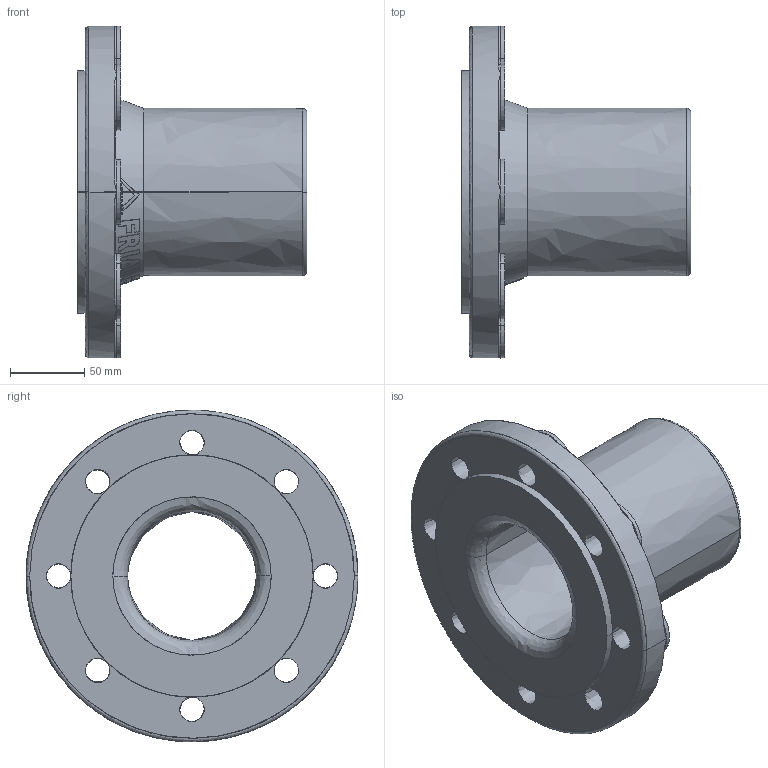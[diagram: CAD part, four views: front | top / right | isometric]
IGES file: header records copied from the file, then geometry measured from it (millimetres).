
Start section:  PTC IGES file: efl_d110_dn100_01.igs
Global section: file name: efl_d110_dn100_01.igs; native system: Pro/ENGINEER by Parametric Technology Corporation; preprocessor: 2011490; author: mtunjic; organization: Unknown; date: 20130819.140814; units: millimetre
Bounding box: 155 x 224 x 224 mm (x, y, z)
Surface area: 191784.5 mm2 (no closed solid volume)
Topology: 0 solids, 0 shells, 391 faces, 1928 edges, 1928 vertices
Faces by surface type: bspline 391
